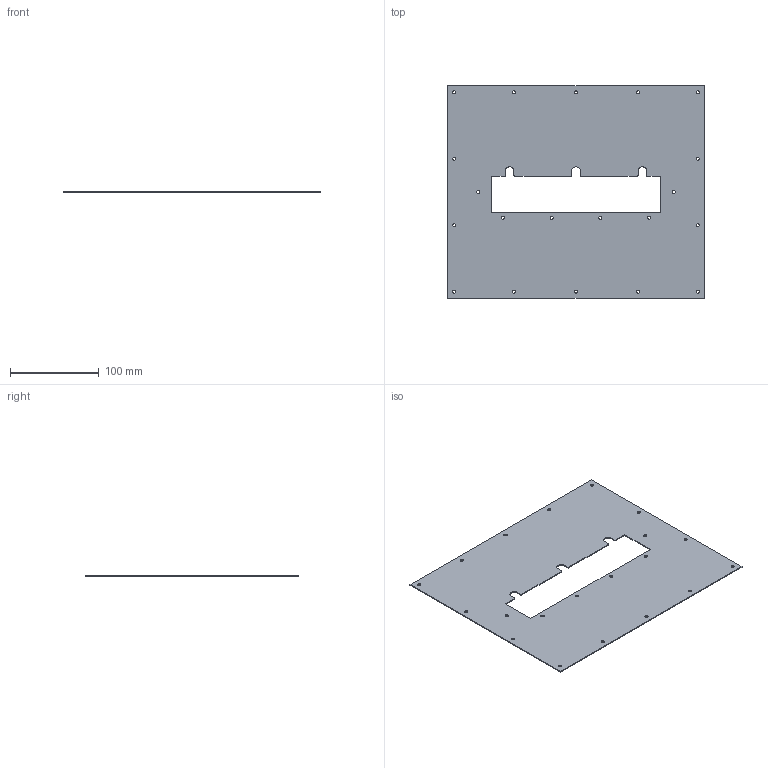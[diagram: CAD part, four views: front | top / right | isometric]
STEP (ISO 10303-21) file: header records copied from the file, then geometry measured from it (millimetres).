
FILE_DESCRIPTION((''),'2;1');
FILE_NAME('OCP3-FIXTURE-ADPT-PLT-DSFF_COLD','2025-03-18T16:01:02',('T_Dawson'),('Dell Technologies'),'CREO PARAMETRIC BY PTC INC, 2023294','CREO PARAMETRIC BY PTC INC, 2023294','');
FILE_SCHEMA(('AUTOMOTIVE_DESIGN { 1 0 10303 214 1 1 1 1 }'));
Length unit declared in the file: millimetre
Products named in the file (1): OCP3-FIXTURE-ADPT-PLT-DSFF_COLD
Bounding box: 290 x 240 x 1 mm (x, y, z)
Volume: 61357.2 mm3; surface area: 124508 mm2
Topology: 1 solids, 1 shells, 68 faces, 198 edges, 155 vertices
Faces by surface type: cylinder 49, plane 19
Entity records: 4138 total; most frequent: DIRECTION 571, CARTESIAN_POINT 525, ORIENTED_EDGE 396, PRESENTATION_STYLE_ASSIGNMENT 225, STYLED_ITEM 225, CURVE_STYLE 224, AXIS2_PLACEMENT_3D 211, EDGE_CURVE 198
